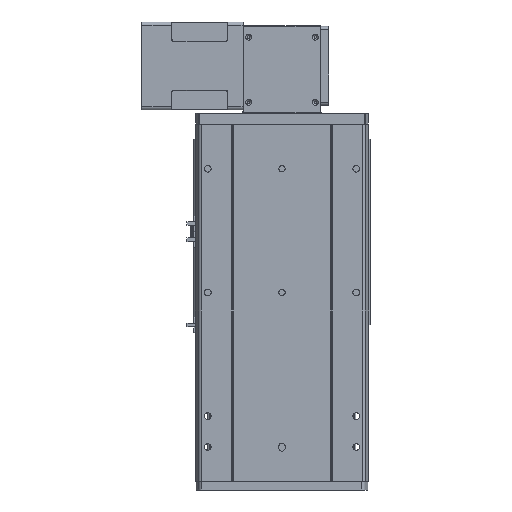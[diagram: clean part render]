
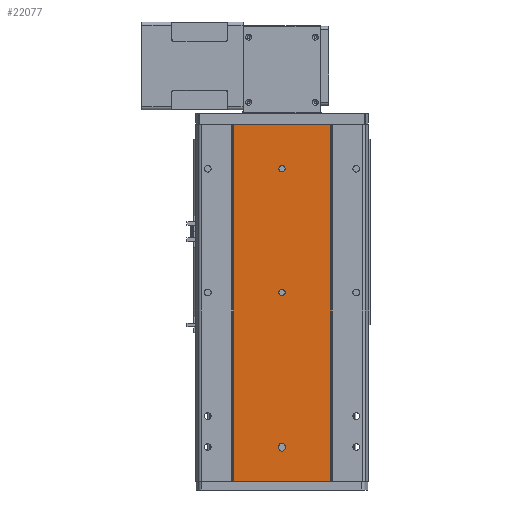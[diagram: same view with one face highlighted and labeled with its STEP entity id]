
A CAD part, front view. The second image highlights one B-rep face of the part: STEP entity #22077.
In plain terms, the highlighted planar face has unit normal (0, -1, 0).
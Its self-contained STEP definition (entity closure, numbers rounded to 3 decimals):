
#148 = AXIS2_PLACEMENT_3D ( 'NONE', #2801, #25235, #25803 ) ;
#539 = VERTEX_POINT ( 'NONE', #17580 ) ;
#1335 = ORIENTED_EDGE ( 'NONE', *, *, #9550, .T. ) ;
#2136 = CARTESIAN_POINT ( 'NONE',  ( 0., 1.5, -76.5 ) ) ;
#2264 = EDGE_CURVE ( 'NONE', #539, #37287, #9020, .T. ) ;
#2801 = CARTESIAN_POINT ( 'NONE',  ( 0., 1.5, -71.5 ) ) ;
#3309 = PLANE ( 'NONE',  #5278 ) ;
#3674 = ORIENTED_EDGE ( 'NONE', *, *, #9990, .T. ) ;
#3860 = DIRECTION ( 'NONE',  ( 1., 0., 0. ) ) ;
#4566 = DIRECTION ( 'NONE',  ( 1., 0., 0. ) ) ;
#4816 = VERTEX_POINT ( 'NONE', #22665 ) ;
#5278 = AXIS2_PLACEMENT_3D ( 'NONE', #20651, #33945, #17611 ) ;
#5746 = VERTEX_POINT ( 'NONE', #2136 ) ;
#5996 = ORIENTED_EDGE ( 'NONE', *, *, #22108, .T. ) ;
#7056 = FACE_BOUND ( 'NONE', #31069, .T. ) ;
#7180 = EDGE_LOOP ( 'NONE', ( #37216, #12334, #9230, #8033 ) ) ;
#7416 = CARTESIAN_POINT ( 'NONE',  ( 5., 1.5, -523. ) ) ;
#7939 = DIRECTION ( 'NONE',  ( 0., 1., 0. ) ) ;
#8033 = ORIENTED_EDGE ( 'NONE', *, *, #29835, .T. ) ;
#8211 = DIRECTION ( 'NONE',  ( 1., 0., 0. ) ) ;
#8290 = CARTESIAN_POINT ( 'NONE',  ( -79., 1.5, -577. ) ) ;
#8345 = LINE ( 'NONE', #19102, #17088 ) ;
#8443 = CARTESIAN_POINT ( 'NONE',  ( 0., 1.5, -271.5 ) ) ;
#8598 = EDGE_CURVE ( 'NONE', #30936, #18881, #31844, .T. ) ;
#8922 = DIRECTION ( 'NONE',  ( 1., 0., 0. ) ) ;
#8945 = ORIENTED_EDGE ( 'NONE', *, *, #2264, .T. ) ;
#9012 = CARTESIAN_POINT ( 'NONE',  ( -79., 1.5, 0. ) ) ;
#9020 = LINE ( 'NONE', #38039, #31104 ) ;
#9230 = ORIENTED_EDGE ( 'NONE', *, *, #40017, .T. ) ;
#9550 = EDGE_CURVE ( 'NONE', #23345, #10273, #37263, .T. ) ;
#9990 = EDGE_CURVE ( 'NONE', #24014, #13619, #17761, .T. ) ;
#10273 = VERTEX_POINT ( 'NONE', #7416 ) ;
#10846 = CIRCLE ( 'NONE', #148, 5. ) ;
#11642 = AXIS2_PLACEMENT_3D ( 'NONE', #8443, #21825, #14741 ) ;
#11699 = EDGE_CURVE ( 'NONE', #18881, #17995, #8345, .T. ) ;
#11986 = DIRECTION ( 'NONE',  ( 0., 0., 1. ) ) ;
#12129 = VECTOR ( 'NONE', #37977, 1000. ) ;
#12334 = ORIENTED_EDGE ( 'NONE', *, *, #8598, .F. ) ;
#12687 = DIRECTION ( 'NONE',  ( 0., 0., 1. ) ) ;
#12691 = EDGE_CURVE ( 'NONE', #37287, #23345, #26995, .T. ) ;
#13117 = DIRECTION ( 'NONE',  ( 1., 0., 0. ) ) ;
#13400 = AXIS2_PLACEMENT_3D ( 'NONE', #36543, #39844, #20266 ) ;
#13619 = VERTEX_POINT ( 'NONE', #38973 ) ;
#13971 = VECTOR ( 'NONE', #12687, 1000. ) ;
#14010 = DIRECTION ( 'NONE',  ( 0., 1., 0. ) ) ;
#14741 = DIRECTION ( 'NONE',  ( 1., 0., 0. ) ) ;
#14758 = CARTESIAN_POINT ( 'NONE',  ( 5., 1.5, -520. ) ) ;
#15009 = LINE ( 'NONE', #35910, #13971 ) ;
#15546 = DIRECTION ( 'NONE',  ( 0., 0., 1. ) ) ;
#15599 = EDGE_LOOP ( 'NONE', ( #32629, #27310 ) ) ;
#16330 = EDGE_CURVE ( 'NONE', #5746, #4816, #32612, .T. ) ;
#16950 = VECTOR ( 'NONE', #11986, 1000. ) ;
#17088 = VECTOR ( 'NONE', #8922, 1000. ) ;
#17580 = CARTESIAN_POINT ( 'NONE',  ( -5., 1.5, -523. ) ) ;
#17611 = DIRECTION ( 'NONE',  ( 1., 0., 0. ) ) ;
#17761 = CIRCLE ( 'NONE', #11642, 5. ) ;
#17809 = FACE_OUTER_BOUND ( 'NONE', #7180, .T. ) ;
#17995 = VERTEX_POINT ( 'NONE', #36593 ) ;
#18881 = VERTEX_POINT ( 'NONE', #9012 ) ;
#19102 = CARTESIAN_POINT ( 'NONE',  ( -79., 1.5, 0. ) ) ;
#19825 = EDGE_CURVE ( 'NONE', #10273, #35346, #31732, .T. ) ;
#19989 = AXIS2_PLACEMENT_3D ( 'NONE', #42282, #38934, #29302 ) ;
#20228 = CARTESIAN_POINT ( 'NONE',  ( 0., 1.5, -523. ) ) ;
#20253 = CIRCLE ( 'NONE', #26814, 5. ) ;
#20266 = DIRECTION ( 'NONE',  ( 1., 0., 0. ) ) ;
#20651 = CARTESIAN_POINT ( 'NONE',  ( -79., 1.5, -577. ) ) ;
#20914 = CARTESIAN_POINT ( 'NONE',  ( -79., 1.5, -577. ) ) ;
#21499 = VECTOR ( 'NONE', #13117, 1000. ) ;
#21825 = DIRECTION ( 'NONE',  ( 0., 1., 0. ) ) ;
#22077 = ADVANCED_FACE ( 'NONE', ( #26618, #17809, #7056, #39843 ), #3309, .T. ) ;
#22108 = EDGE_CURVE ( 'NONE', #13619, #24014, #25597, .T. ) ;
#22665 = CARTESIAN_POINT ( 'NONE',  ( 0., 1.5, -66.5 ) ) ;
#23345 = VERTEX_POINT ( 'NONE', #14758 ) ;
#23475 = EDGE_LOOP ( 'NONE', ( #8945, #23477, #1335, #39732, #40207 ) ) ;
#23477 = ORIENTED_EDGE ( 'NONE', *, *, #12691, .T. ) ;
#23585 = DIRECTION ( 'NONE',  ( 0., 1., 0. ) ) ;
#23777 = EDGE_CURVE ( 'NONE', #35346, #539, #20253, .T. ) ;
#24014 = VERTEX_POINT ( 'NONE', #28706 ) ;
#24384 = CARTESIAN_POINT ( 'NONE',  ( 0., 1.5, -71.5 ) ) ;
#25235 = DIRECTION ( 'NONE',  ( 0., 1., 0. ) ) ;
#25597 = CIRCLE ( 'NONE', #41818, 5. ) ;
#25803 = DIRECTION ( 'NONE',  ( 1., 0., 0. ) ) ;
#26618 = FACE_BOUND ( 'NONE', #15599, .T. ) ;
#26814 = AXIS2_PLACEMENT_3D ( 'NONE', #20228, #23585, #3860 ) ;
#26995 = CIRCLE ( 'NONE', #13400, 5. ) ;
#27310 = ORIENTED_EDGE ( 'NONE', *, *, #33606, .T. ) ;
#28321 = CARTESIAN_POINT ( 'NONE',  ( 5., 1.5, -577. ) ) ;
#28706 = CARTESIAN_POINT ( 'NONE',  ( 0., 1.5, -276.5 ) ) ;
#29302 = DIRECTION ( 'NONE',  ( 1., 0., 0. ) ) ;
#29835 = EDGE_CURVE ( 'NONE', #40735, #17995, #15009, .T. ) ;
#30936 = VERTEX_POINT ( 'NONE', #34507 ) ;
#31069 = EDGE_LOOP ( 'NONE', ( #3674, #5996 ) ) ;
#31104 = VECTOR ( 'NONE', #15546, 1000. ) ;
#31732 = CIRCLE ( 'NONE', #19989, 5. ) ;
#31844 = LINE ( 'NONE', #8290, #16950 ) ;
#32612 = CIRCLE ( 'NONE', #40404, 5. ) ;
#32629 = ORIENTED_EDGE ( 'NONE', *, *, #16330, .T. ) ;
#33415 = CARTESIAN_POINT ( 'NONE',  ( -5., 1.5, -520. ) ) ;
#33606 = EDGE_CURVE ( 'NONE', #4816, #5746, #10846, .T. ) ;
#33945 = DIRECTION ( 'NONE',  ( 0., -1., 0. ) ) ;
#34507 = CARTESIAN_POINT ( 'NONE',  ( -79., 1.5, -577. ) ) ;
#35346 = VERTEX_POINT ( 'NONE', #36683 ) ;
#35910 = CARTESIAN_POINT ( 'NONE',  ( 79., 1.5, -577. ) ) ;
#36543 = CARTESIAN_POINT ( 'NONE',  ( 0., 1.5, -520. ) ) ;
#36593 = CARTESIAN_POINT ( 'NONE',  ( 79., 1.5, 0. ) ) ;
#36683 = CARTESIAN_POINT ( 'NONE',  ( 0., 1.5, -528. ) ) ;
#37216 = ORIENTED_EDGE ( 'NONE', *, *, #11699, .F. ) ;
#37263 = LINE ( 'NONE', #28321, #12129 ) ;
#37287 = VERTEX_POINT ( 'NONE', #33415 ) ;
#37977 = DIRECTION ( 'NONE',  ( 0., 0., -1. ) ) ;
#38039 = CARTESIAN_POINT ( 'NONE',  ( -5., 1.5, -577. ) ) ;
#38934 = DIRECTION ( 'NONE',  ( 0., 1., 0. ) ) ;
#38973 = CARTESIAN_POINT ( 'NONE',  ( 0., 1.5, -266.5 ) ) ;
#39732 = ORIENTED_EDGE ( 'NONE', *, *, #19825, .T. ) ;
#39843 = FACE_BOUND ( 'NONE', #23475, .T. ) ;
#39844 = DIRECTION ( 'NONE',  ( 0., 1., 0. ) ) ;
#39919 = LINE ( 'NONE', #20914, #21499 ) ;
#40017 = EDGE_CURVE ( 'NONE', #30936, #40735, #39919, .T. ) ;
#40207 = ORIENTED_EDGE ( 'NONE', *, *, #23777, .T. ) ;
#40404 = AXIS2_PLACEMENT_3D ( 'NONE', #24384, #7939, #8211 ) ;
#40538 = CARTESIAN_POINT ( 'NONE',  ( 0., 1.5, -271.5 ) ) ;
#40735 = VERTEX_POINT ( 'NONE', #41206 ) ;
#41206 = CARTESIAN_POINT ( 'NONE',  ( 79., 1.5, -577. ) ) ;
#41818 = AXIS2_PLACEMENT_3D ( 'NONE', #40538, #14010, #4566 ) ;
#42282 = CARTESIAN_POINT ( 'NONE',  ( 0., 1.5, -523. ) ) ;
